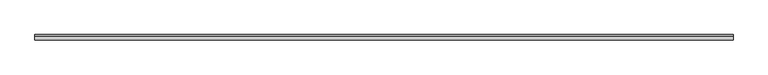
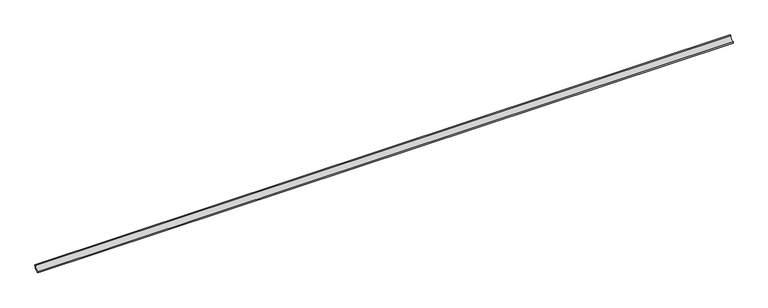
"""IFC4 building model written with IfcOpenShell, lengths in millimetres: proxy geometry, EXAGRES - Piscina Mediacaña : Publica_Azul_24.5x4cm."""

from ifc_helpers import new_model, si_unit, point, frame, frame_2d, origin, place, context, project, spatial, polyline, circle_curve, trimmed, segment, composite_curve, outline, extrude, source, transform, mapped, element, save


def generic_models_adeb31d8(model_context):
    return source(origin(), model_context, "Body", "SweptSolid", [
        extrude(outline(composite_curve([segment(polyline([(0.0, 23.9), (6.4, 23.9)]), True, "CONTINUOUS"), segment(trimmed(circle_curve(frame_2d((-23.9, 23.9)), 30.3), [point((6.4, 23.9))], [point((-23.9, -6.4))], False, "CARTESIAN"), True, "CONTINUOUS"), segment(polyline([(-23.9, -6.4), (-23.9, 0.0)]), True, "CONTINUOUS"), segment(trimmed(circle_curve(frame_2d((-23.9, 23.9)), 23.9), [point((-23.9, 0.0))], [point((0.0, 23.9))], True, "CARTESIAN"), True, "CONTINUOUS")], self_intersect=False)), frame((23.9, 0.0, 0.0), z_axis=(1.0, 0.0, 0.0), x_axis=(0.0, 1.0, 0.0)), (0.0, 0.0, 1.0), 3952.2),
    ])


if __name__ == "__main__":
    model = new_model("IFC4")
    model_context = context("Model", 3, world=origin())
    ifc_project = project(units=[si_unit("LENGTHUNIT", "METRE", prefix="MILLI")], contexts=[model_context])
    site = spatial("IfcSite", under=ifc_project)
    building = spatial("IfcBuilding", under=site)
    placement = place(None, origin())
    generic_models_shape = generic_models_adeb31d8(model_context)
    element("IfcBuildingElementProxy", 1, Name="EXAGRES - Piscina Mediacaña : Publica_Azul_24.5x4cm", ObjectType="EXAGRES - Piscina Mediacaña : Publica_Azul_24.5x4cm", at=placement, inside=building, context=model_context, shape_type="MappedRepresentation", body=[
        mapped(generic_models_shape, transform((0.0, 0.0, 0.0), x_axis=(1.0, 0.0, 0.0), y_axis=(0.0, 1.0, 0.0), z_axis=(0.0, 0.0, 1.0))),
    ])
    save(model, "model.ifc")
